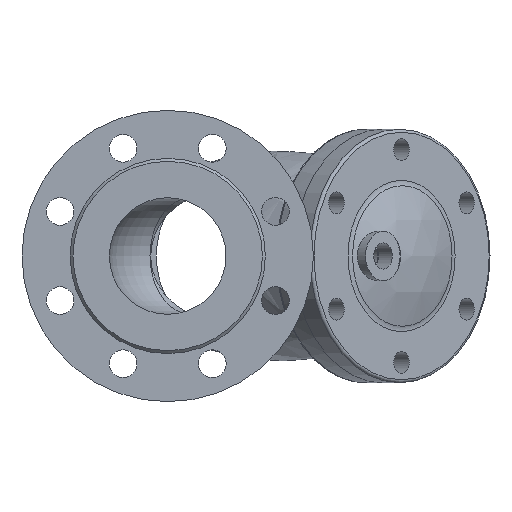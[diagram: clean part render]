
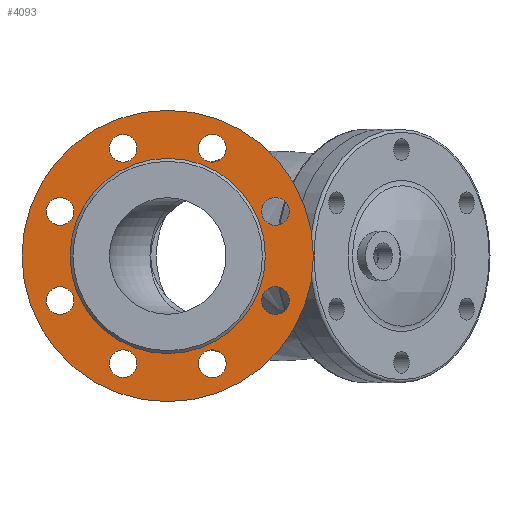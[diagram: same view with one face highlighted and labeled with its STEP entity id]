
A CAD part, left-side view. The second image highlights one B-rep face of the part: STEP entity #4093.
In plain terms, the highlighted planar face has unit normal (-1, 0, 0).
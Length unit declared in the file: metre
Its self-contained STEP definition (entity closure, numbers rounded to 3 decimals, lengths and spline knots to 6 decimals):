
#49=FACE_BOUND('',#1065,.T.);
#50=FACE_BOUND('',#1066,.T.);
#51=FACE_BOUND('',#1067,.T.);
#52=FACE_BOUND('',#1068,.T.);
#53=FACE_BOUND('',#1069,.T.);
#54=FACE_BOUND('',#1070,.T.);
#55=FACE_BOUND('',#1071,.T.);
#56=FACE_BOUND('',#1072,.T.);
#57=FACE_BOUND('',#1073,.T.);
#150=PLANE('',#4498);
#819=FACE_OUTER_BOUND('',#1064,.T.);
#1064=EDGE_LOOP('',(#3140));
#1065=EDGE_LOOP('',(#3141));
#1066=EDGE_LOOP('',(#3142));
#1067=EDGE_LOOP('',(#3143));
#1068=EDGE_LOOP('',(#3144));
#1069=EDGE_LOOP('',(#3145));
#1070=EDGE_LOOP('',(#3146));
#1071=EDGE_LOOP('',(#3147));
#1072=EDGE_LOOP('',(#3148));
#1073=EDGE_LOOP('',(#3149));
#1367=CIRCLE('',#4412,0.0095);
#1369=CIRCLE('',#4415,0.0095);
#1371=CIRCLE('',#4418,0.0095);
#1373=CIRCLE('',#4421,0.0095);
#1375=CIRCLE('',#4424,0.0095);
#1377=CIRCLE('',#4427,0.0095);
#1379=CIRCLE('',#4430,0.0095);
#1381=CIRCLE('',#4433,0.0095);
#1425=CIRCLE('',#4497,0.067);
#1426=CIRCLE('',#4499,0.1);
#1826=VERTEX_POINT('',#11436);
#1828=VERTEX_POINT('',#11442);
#1830=VERTEX_POINT('',#11448);
#1832=VERTEX_POINT('',#11454);
#1834=VERTEX_POINT('',#11460);
#1836=VERTEX_POINT('',#11466);
#1838=VERTEX_POINT('',#11472);
#1840=VERTEX_POINT('',#11478);
#1880=VERTEX_POINT('',#12630);
#1881=VERTEX_POINT('',#12634);
#2283=EDGE_CURVE('',#1826,#1826,#1367,.T.);
#2286=EDGE_CURVE('',#1828,#1828,#1369,.T.);
#2289=EDGE_CURVE('',#1830,#1830,#1371,.T.);
#2292=EDGE_CURVE('',#1832,#1832,#1373,.T.);
#2295=EDGE_CURVE('',#1834,#1834,#1375,.T.);
#2298=EDGE_CURVE('',#1836,#1836,#1377,.T.);
#2301=EDGE_CURVE('',#1838,#1838,#1379,.T.);
#2304=EDGE_CURVE('',#1840,#1840,#1381,.T.);
#2369=EDGE_CURVE('',#1880,#1880,#1425,.T.);
#2371=EDGE_CURVE('',#1881,#1881,#1426,.T.);
#3140=ORIENTED_EDGE('',*,*,#2371,.F.);
#3141=ORIENTED_EDGE('',*,*,#2304,.T.);
#3142=ORIENTED_EDGE('',*,*,#2301,.T.);
#3143=ORIENTED_EDGE('',*,*,#2298,.T.);
#3144=ORIENTED_EDGE('',*,*,#2295,.T.);
#3145=ORIENTED_EDGE('',*,*,#2292,.T.);
#3146=ORIENTED_EDGE('',*,*,#2289,.T.);
#3147=ORIENTED_EDGE('',*,*,#2286,.T.);
#3148=ORIENTED_EDGE('',*,*,#2283,.T.);
#3149=ORIENTED_EDGE('',*,*,#2369,.T.);
#4093=ADVANCED_FACE('',(#819,#49,#50,#51,#52,#53,#54,#55,#56,#57),#150,
 .T.);
#4412=AXIS2_PLACEMENT_3D('',#11438,#5040,#5041);
#4415=AXIS2_PLACEMENT_3D('',#11444,#5047,#5048);
#4418=AXIS2_PLACEMENT_3D('',#11450,#5054,#5055);
#4421=AXIS2_PLACEMENT_3D('',#11456,#5061,#5062);
#4424=AXIS2_PLACEMENT_3D('',#11462,#5068,#5069);
#4427=AXIS2_PLACEMENT_3D('',#11468,#5075,#5076);
#4430=AXIS2_PLACEMENT_3D('',#11474,#5082,#5083);
#4433=AXIS2_PLACEMENT_3D('',#11480,#5089,#5090);
#4497=AXIS2_PLACEMENT_3D('',#12631,#5229,#5230);
#4498=AXIS2_PLACEMENT_3D('',#12633,#5232,#5233);
#4499=AXIS2_PLACEMENT_3D('',#12635,#5234,#5235);
#5040=DIRECTION('center_axis',(1.,0.,0.));
#5041=DIRECTION('ref_axis',(0.,0.,-1.));
#5047=DIRECTION('center_axis',(1.,0.,0.));
#5048=DIRECTION('ref_axis',(0.,0.,-1.));
#5054=DIRECTION('center_axis',(1.,0.,0.));
#5055=DIRECTION('ref_axis',(0.,0.,-1.));
#5061=DIRECTION('center_axis',(1.,0.,0.));
#5062=DIRECTION('ref_axis',(0.,0.,-1.));
#5068=DIRECTION('center_axis',(1.,0.,0.));
#5069=DIRECTION('ref_axis',(0.,0.,-1.));
#5075=DIRECTION('center_axis',(1.,0.,0.));
#5076=DIRECTION('ref_axis',(0.,0.,-1.));
#5082=DIRECTION('center_axis',(1.,0.,0.));
#5083=DIRECTION('ref_axis',(0.,0.,-1.));
#5089=DIRECTION('center_axis',(1.,0.,0.));
#5090=DIRECTION('ref_axis',(0.,0.,-1.));
#5229=DIRECTION('center_axis',(1.,0.,0.));
#5230=DIRECTION('ref_axis',(0.,0.,-1.));
#5232=DIRECTION('center_axis',(-1.,0.,0.));
#5233=DIRECTION('ref_axis',(0.,0.,1.));
#5234=DIRECTION('center_axis',(1.,0.,0.));
#5235=DIRECTION('ref_axis',(0.,0.,-1.));
#11436=CARTESIAN_POINT('',(-0.153,0.07391,-0.040115));
#11438=CARTESIAN_POINT('Origin',(-0.153,0.07391,-0.030615));
#11442=CARTESIAN_POINT('',(-0.153,0.07391,0.021115));
#11444=CARTESIAN_POINT('Origin',(-0.153,0.07391,0.030615));
#11448=CARTESIAN_POINT('',(-0.153,0.030615,0.06441));
#11450=CARTESIAN_POINT('Origin',(-0.153,0.030615,0.07391));
#11454=CARTESIAN_POINT('',(-0.153,-0.030615,0.06441));
#11456=CARTESIAN_POINT('Origin',(-0.153,-0.030615,0.07391));
#11460=CARTESIAN_POINT('',(-0.153,-0.07391,0.021115));
#11462=CARTESIAN_POINT('Origin',(-0.153,-0.07391,0.030615));
#11466=CARTESIAN_POINT('',(-0.153,-0.07391,-0.040115));
#11468=CARTESIAN_POINT('Origin',(-0.153,-0.07391,-0.030615));
#11472=CARTESIAN_POINT('',(-0.153,-0.030615,-0.08341));
#11474=CARTESIAN_POINT('Origin',(-0.153,-0.030615,-0.07391));
#11478=CARTESIAN_POINT('',(-0.153,0.030615,-0.08341));
#11480=CARTESIAN_POINT('Origin',(-0.153,0.030615,-0.07391));
#12630=CARTESIAN_POINT('',(-0.153,0.,0.067));
#12631=CARTESIAN_POINT('Origin',(-0.153,0.,0.));
#12633=CARTESIAN_POINT('Origin',(-0.153,0.067,0.));
#12634=CARTESIAN_POINT('',(-0.153,0.,0.1));
#12635=CARTESIAN_POINT('Origin',(-0.153,0.,0.));
